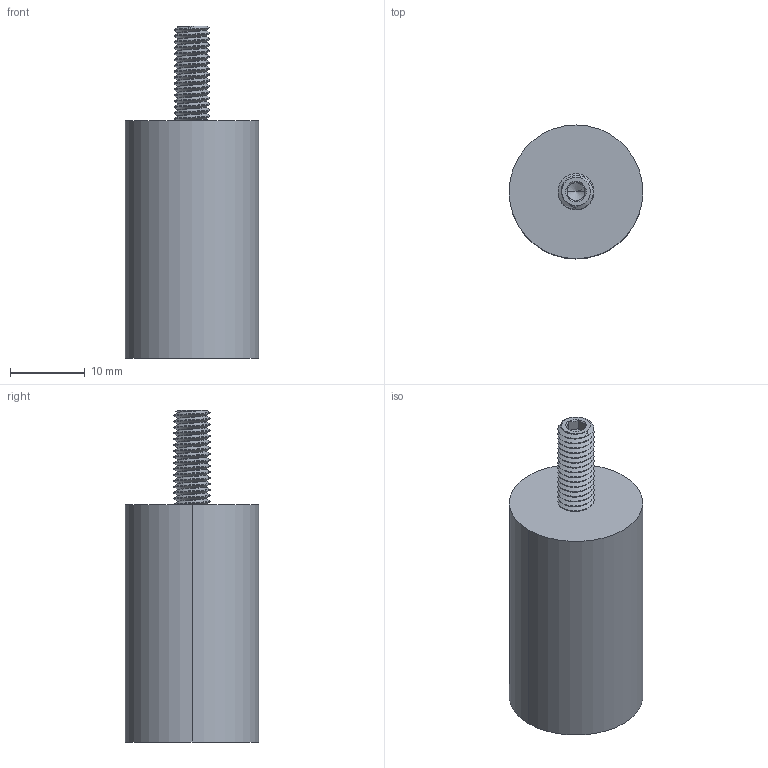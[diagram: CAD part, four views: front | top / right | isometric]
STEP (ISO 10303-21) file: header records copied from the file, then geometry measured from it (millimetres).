
FILE_DESCRIPTION (( 'STEP AP203' ), '1' );
FILE_NAME ('FDPCK-.5PULTRUD-STUD-10-32-L.step', '2019-09-11T18:22:03', ( 'ydmin' ), ( '' ), 'SwSTEP 2.0', 'SolidWorks 2017', '' );
FILE_SCHEMA (( 'CONFIG_CONTROL_DESIGN' ));
Length unit declared in the file: inch
Products named in the file (1): FDPCK-.5PULTRUD-STUD-10-32-L
Bounding box: 17.91 x 17.91 x 44.45 mm (x, y, z)
Volume: 5488.9 mm3; surface area: 3820.8 mm2
Topology: 2 solids, 2 shells, 104 faces, 276 edges, 173 vertices
Faces by surface type: cylinder 68, cone 18, plane 15, bspline 3
Entity records: 8128 total; most frequent: CARTESIAN_POINT 5894, ORIENTED_EDGE 544, DIRECTION 364, EDGE_CURVE 272, VERTEX_POINT 173, AXIS2_PLACEMENT_3D 134, EDGE_LOOP 107, FACE_OUTER_BOUND 104
